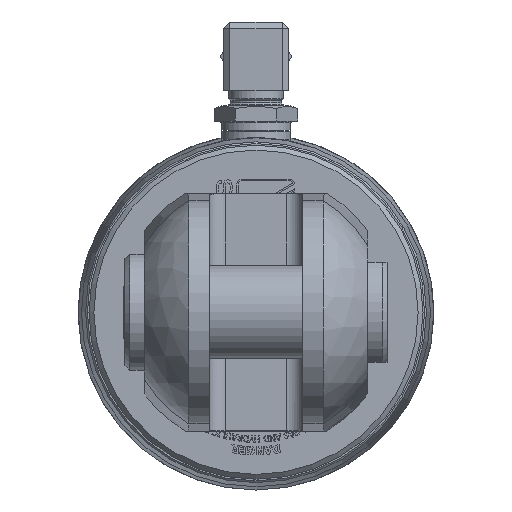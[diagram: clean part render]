
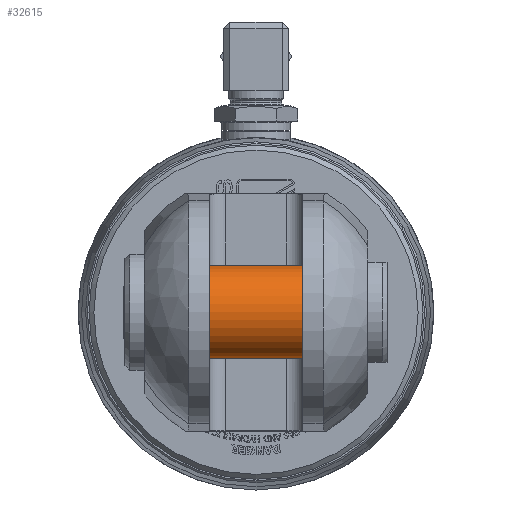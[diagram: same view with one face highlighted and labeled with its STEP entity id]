
A CAD part, left-side view. The second image highlights one B-rep face of the part: STEP entity #32615.
In plain terms, the highlighted cylindrical face has radius 14.29 mm (diameter 28.58 mm), a full revolution.
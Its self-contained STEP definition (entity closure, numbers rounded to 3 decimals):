
#1809=CYLINDRICAL_SURFACE('',#34456,14.29);
#2381=CIRCLE('',#34457,14.29);
#2382=CIRCLE('',#34458,14.29);
#2383=CIRCLE('',#34459,14.29);
#2384=CIRCLE('',#34460,14.29);
#2789=FACE_OUTER_BOUND('',#4560,.T.);
#4560=EDGE_LOOP('',(#20478,#20479,#20480,#20481,#20482,#20483));
#6510=LINE('',#42568,#9467);
#9467=VECTOR('',#36222,14.29);
#12475=VERTEX_POINT('',#42564);
#12476=VERTEX_POINT('',#42565);
#12477=VERTEX_POINT('',#42567);
#12478=VERTEX_POINT('',#42569);
#15659=EDGE_CURVE('',#12475,#12476,#2381,.T.);
#15660=EDGE_CURVE('',#12476,#12477,#6510,.T.);
#15661=EDGE_CURVE('',#12477,#12478,#2382,.T.);
#15662=EDGE_CURVE('',#12478,#12477,#2383,.T.);
#15663=EDGE_CURVE('',#12476,#12475,#2384,.T.);
#20478=ORIENTED_EDGE('',*,*,#15659,.T.);
#20479=ORIENTED_EDGE('',*,*,#15660,.T.);
#20480=ORIENTED_EDGE('',*,*,#15661,.T.);
#20481=ORIENTED_EDGE('',*,*,#15662,.T.);
#20482=ORIENTED_EDGE('',*,*,#15660,.F.);
#20483=ORIENTED_EDGE('',*,*,#15663,.T.);
#32615=ADVANCED_FACE('',(#2789),#1809,.T.);
#34456=AXIS2_PLACEMENT_3D('',#42563,#36218,#36219);
#34457=AXIS2_PLACEMENT_3D('',#42566,#36220,#36221);
#34458=AXIS2_PLACEMENT_3D('',#42570,#36223,#36224);
#34459=AXIS2_PLACEMENT_3D('',#42571,#36225,#36226);
#34460=AXIS2_PLACEMENT_3D('',#42572,#36227,#36228);
#36218=DIRECTION('center_axis',(0.,-1.,0.));
#36219=DIRECTION('ref_axis',(0.,0.,
1.));
#36220=DIRECTION('center_axis',(0.,1.,0.));
#36221=DIRECTION('ref_axis',(0.,0.,
1.));
#36222=DIRECTION('',(0.,1.,0.));
#36223=DIRECTION('center_axis',(0.,-1.,0.));
#36224=DIRECTION('ref_axis',(0.,0.,
1.));
#36225=DIRECTION('center_axis',(0.,-1.,0.));
#36226=DIRECTION('ref_axis',(0.,0.,
1.));
#36227=DIRECTION('center_axis',(0.,1.,0.));
#36228=DIRECTION('ref_axis',(0.,0.,
1.));
#42563=CARTESIAN_POINT('Origin',(-904.988,0.,0.));
#42564=CARTESIAN_POINT('',(-890.698,-14.39,0.));
#42565=CARTESIAN_POINT('',(-904.988,-14.39,-14.29));
#42566=CARTESIAN_POINT('Origin',(-904.988,-14.39,0.));
#42567=CARTESIAN_POINT('',(-904.988,14.39,-14.29));
#42568=CARTESIAN_POINT('',(-904.988,0.,-14.29));
#42569=CARTESIAN_POINT('',(-890.698,14.39,0.));
#42570=CARTESIAN_POINT('Origin',(-904.988,14.39,0.));
#42571=CARTESIAN_POINT('Origin',(-904.988,14.39,0.));
#42572=CARTESIAN_POINT('Origin',(-904.988,-14.39,0.));
